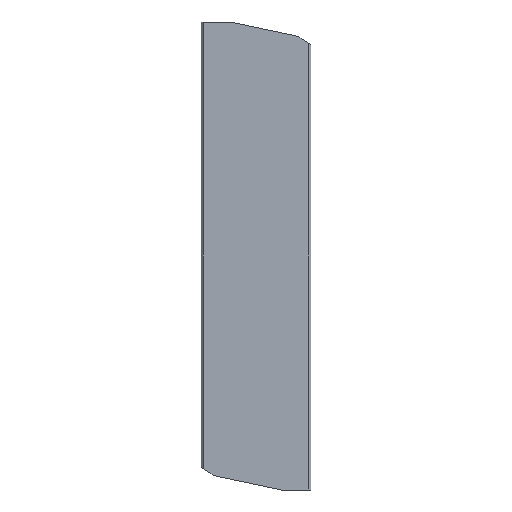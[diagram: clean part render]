
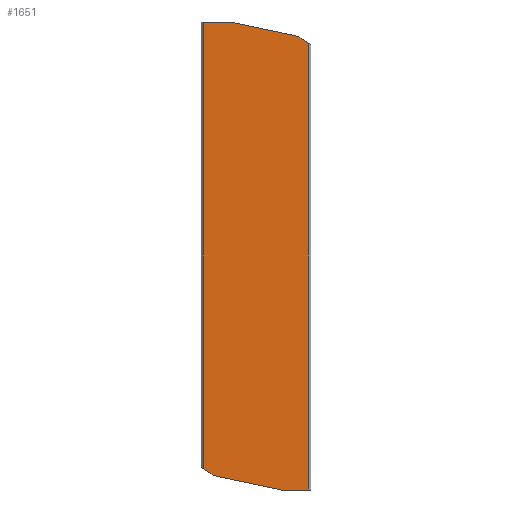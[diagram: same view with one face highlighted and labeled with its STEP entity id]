
A CAD part, left-side view. The second image highlights one B-rep face of the part: STEP entity #1651.
In plain terms, the highlighted planar face has unit normal (-1, 0, 0).
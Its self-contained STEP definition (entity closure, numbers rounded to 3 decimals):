
#1611=AXIS2_PLACEMENT_3D('Plane Axis2P3D',#1608,#1609,#1610) ;
#993=CARTESIAN_POINT('Vertex',(0.,0.634,-5.007)) ;
#1000=CARTESIAN_POINT('Vertex',(0.,3.189,-3.348)) ;
#1003=CARTESIAN_POINT('Line Origine',(0.,1.911,-4.177)) ;
#1025=CARTESIAN_POINT('Vertex',(0.,18.939,0.)) ;
#1028=CARTESIAN_POINT('Line Origine',(0.,11.064,-1.674)) ;
#1056=CARTESIAN_POINT('Vertex',(0.,25.366,0.)) ;
#1059=CARTESIAN_POINT('Line Origine',(0.,22.152,0.)) ;
#1471=CARTESIAN_POINT('Vertex',(0.,0.634,-110.)) ;
#1474=CARTESIAN_POINT('Line Origine',(0.,3.848,-110.)) ;
#1478=CARTESIAN_POINT('Vertex',(0.,7.061,-110.)) ;
#1587=CARTESIAN_POINT('Line Origine',(0.,0.634,-30.003)) ;
#1591=CARTESIAN_POINT('Vertex',(0.,0.634,-55.)) ;
#1594=CARTESIAN_POINT('Line Origine',(0.,0.634,-82.5)) ;
#1608=CARTESIAN_POINT('Axis2P3D Location',(0.,25.366,-114.)) ;
#1613=CARTESIAN_POINT('Line Origine',(0.,25.366,-79.997)) ;
#1617=CARTESIAN_POINT('Vertex',(0.,25.366,-104.993)) ;
#1619=CARTESIAN_POINT('Vertex',(0.,25.366,-55.)) ;
#1622=CARTESIAN_POINT('Line Origine',(0.,24.089,-105.823)) ;
#1626=CARTESIAN_POINT('Vertex',(0.,22.811,-106.652)) ;
#1629=CARTESIAN_POINT('Line Origine',(0.,14.936,-108.326)) ;
#1634=CARTESIAN_POINT('Line Origine',(0.,25.366,-27.5)) ;
#1004=DIRECTION('Vector Direction',(0.,-0.839,-0.545)) ;
#1029=DIRECTION('Vector Direction',(0.,0.978,0.208)) ;
#1060=DIRECTION('Vector Direction',(0.,1.,0.)) ;
#1475=DIRECTION('Vector Direction',(0.,-1.,0.)) ;
#1588=DIRECTION('Vector Direction',(0.,0.,-1.)) ;
#1595=DIRECTION('Vector Direction',(0.,0.,1.)) ;
#1609=DIRECTION('Axis2P3D Direction',(-1.,0.,0.)) ;
#1610=DIRECTION('Axis2P3D XDirection',(0.,-1.,0.)) ;
#1614=DIRECTION('Vector Direction',(0.,0.,1.)) ;
#1623=DIRECTION('Vector Direction',(0.,0.839,0.545)) ;
#1630=DIRECTION('Vector Direction',(0.,-0.978,-0.208)) ;
#1635=DIRECTION('Vector Direction',(0.,0.,-1.)) ;
#1005=VECTOR('Line Direction',#1004,1.) ;
#1030=VECTOR('Line Direction',#1029,1.) ;
#1061=VECTOR('Line Direction',#1060,1.) ;
#1476=VECTOR('Line Direction',#1475,1.) ;
#1589=VECTOR('Line Direction',#1588,1.) ;
#1596=VECTOR('Line Direction',#1595,1.) ;
#1615=VECTOR('Line Direction',#1614,1.) ;
#1624=VECTOR('Line Direction',#1623,1.) ;
#1631=VECTOR('Line Direction',#1630,1.) ;
#1636=VECTOR('Line Direction',#1635,1.) ;
#1640=ORIENTED_EDGE('',*,*,#1621,.F.) ;
#1641=ORIENTED_EDGE('',*,*,#1628,.F.) ;
#1642=ORIENTED_EDGE('',*,*,#1633,.T.) ;
#1643=ORIENTED_EDGE('',*,*,#1480,.T.) ;
#1644=ORIENTED_EDGE('',*,*,#1598,.T.) ;
#1645=ORIENTED_EDGE('',*,*,#1593,.F.) ;
#1646=ORIENTED_EDGE('',*,*,#1007,.F.) ;
#1647=ORIENTED_EDGE('',*,*,#1032,.T.) ;
#1648=ORIENTED_EDGE('',*,*,#1063,.T.) ;
#1649=ORIENTED_EDGE('',*,*,#1638,.T.) ;
#1651=ADVANCED_FACE('NO_CUT',(#1650),#1612,.T.) ;
#1007=EDGE_CURVE('',#1001,#994,#1006,.T.) ;
#1032=EDGE_CURVE('',#1001,#1026,#1031,.T.) ;
#1063=EDGE_CURVE('',#1026,#1057,#1062,.T.) ;
#1480=EDGE_CURVE('',#1479,#1472,#1477,.T.) ;
#1593=EDGE_CURVE('',#994,#1592,#1590,.T.) ;
#1598=EDGE_CURVE('',#1472,#1592,#1597,.T.) ;
#1621=EDGE_CURVE('',#1618,#1620,#1616,.T.) ;
#1628=EDGE_CURVE('',#1627,#1618,#1625,.T.) ;
#1633=EDGE_CURVE('',#1627,#1479,#1632,.T.) ;
#1638=EDGE_CURVE('',#1057,#1620,#1637,.T.) ;
#1639=EDGE_LOOP('',(#1640,#1641,#1642,#1643,#1644,#1645,#1646,#1647,#1648,#1649)) ;
#1650=FACE_OUTER_BOUND('',#1639,.T.) ;
#1006=LINE('Line',#1003,#1005) ;
#1031=LINE('Line',#1028,#1030) ;
#1062=LINE('Line',#1059,#1061) ;
#1477=LINE('Line',#1474,#1476) ;
#1590=LINE('Line',#1587,#1589) ;
#1597=LINE('Line',#1594,#1596) ;
#1616=LINE('Line',#1613,#1615) ;
#1625=LINE('Line',#1622,#1624) ;
#1632=LINE('Line',#1629,#1631) ;
#1637=LINE('Line',#1634,#1636) ;
#1612=PLANE('',#1611) ;
#994=VERTEX_POINT('',#993) ;
#1001=VERTEX_POINT('',#1000) ;
#1026=VERTEX_POINT('',#1025) ;
#1057=VERTEX_POINT('',#1056) ;
#1472=VERTEX_POINT('',#1471) ;
#1479=VERTEX_POINT('',#1478) ;
#1592=VERTEX_POINT('',#1591) ;
#1618=VERTEX_POINT('',#1617) ;
#1620=VERTEX_POINT('',#1619) ;
#1627=VERTEX_POINT('',#1626) ;
